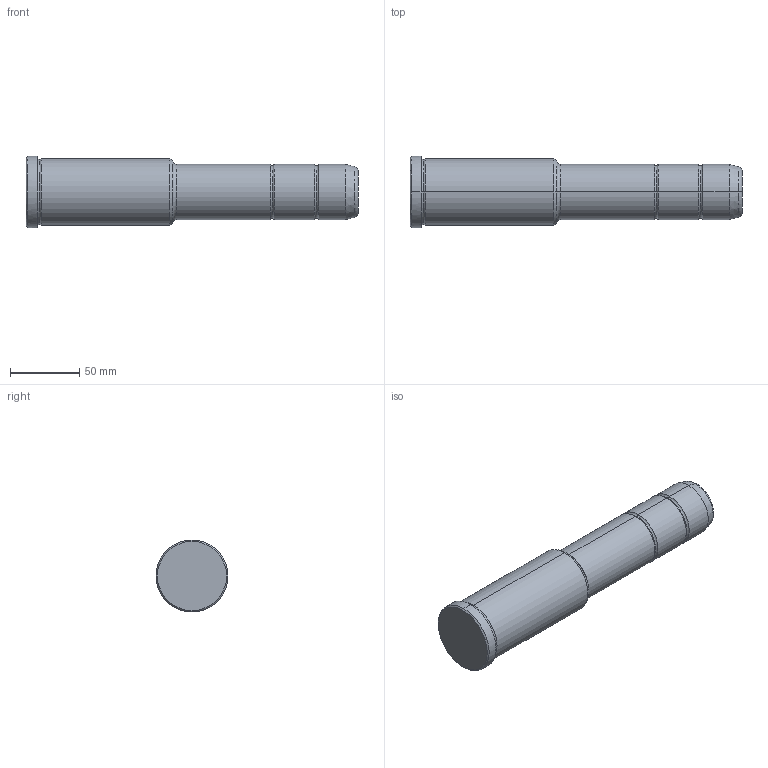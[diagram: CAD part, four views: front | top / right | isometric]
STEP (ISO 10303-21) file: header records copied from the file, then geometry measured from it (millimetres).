
FILE_DESCRIPTION(('CATIA V5 STEP Exchange'),'2;1');
FILE_NAME('C:\Users\Utente\Desktop\IO LAVORO\3D X SITO CF\X SITO\PLASTICA\351\351-40X106X240.stp','2021-10-07T13:43:38+00:00',('none'),('none'),'CATIA Version 5 Release 20 GA (IN-10)','CATIA V5 STEP AP203','none');
FILE_SCHEMA(('CONFIG_CONTROL_DESIGN'));
Length unit declared in the file: millimetre
Products named in the file (1): 351-40X106X240
Bounding box: 240 x 52 x 52 mm (x, y, z)
Volume: 360531.9 mm3; surface area: 36619.2 mm2
Topology: 1 solids, 1 shells, 36 faces, 102 edges, 70 vertices
Faces by surface type: torus 16, cylinder 10, cone 6, plane 4
Entity records: 1292 total; most frequent: CARTESIAN_POINT 321, ORIENTED_EDGE 204, DIRECTION 166, AXIS2_PLACEMENT_3D 115, EDGE_CURVE 102, CIRCLE 78, VERTEX_POINT 70, EDGE_LOOP 38
